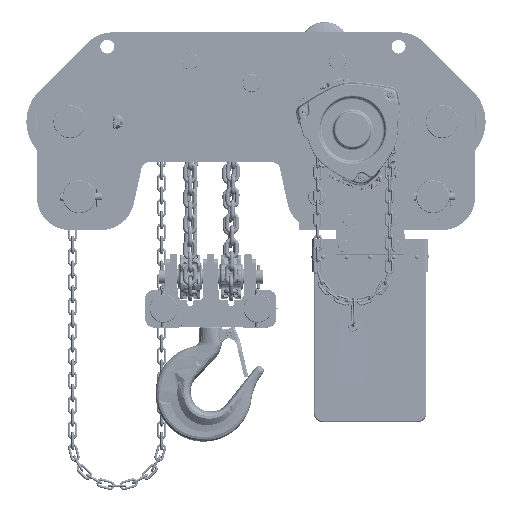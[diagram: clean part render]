
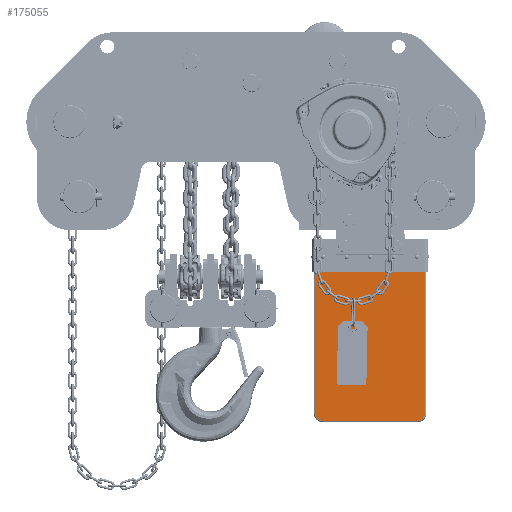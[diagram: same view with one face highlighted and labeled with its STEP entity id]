
A CAD part, top view. The second image highlights one B-rep face of the part: STEP entity #175055.
In plain terms, the highlighted planar face has unit normal (0, 0, 1) as drawn and (-1, 0, 0) by its records, which use the part's own axes.
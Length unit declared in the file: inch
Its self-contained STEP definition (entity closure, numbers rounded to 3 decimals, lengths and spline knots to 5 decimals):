
#5358 = DIRECTION ( 'NONE',  ( 0., 0., 1. ) ) ;
#10570 = DIRECTION ( 'NONE',  ( 0., 0., 1. ) ) ;
#90874 = CARTESIAN_POINT ( 'NONE',  ( -4.72441, -13.46457, -4.6063 ) ) ;
#91840 = ORIENTED_EDGE ( 'NONE', *, *, #614603, .T. ) ;
#100992 = LINE ( 'NONE', #241967, #188574 ) ;
#107564 = DIRECTION ( 'NONE',  ( 0., -1., 0. ) ) ;
#127791 = DIRECTION ( 'NONE',  ( 0., 0., 1. ) ) ;
#146404 = PLANE ( 'NONE',  #623420 ) ;
#153481 = DIRECTION ( 'NONE',  ( 0., 1., 0. ) ) ;
#167734 = LINE ( 'NONE', #511664, #405348 ) ;
#175055 = ADVANCED_FACE ( 'NONE', ( #447543 ), #146404, .T. ) ;
#179502 = CIRCLE ( 'NONE', #545605, 0.66929 ) ;
#188574 = VECTOR ( 'NONE', #153481, 39.37008 ) ;
#190373 = DIRECTION ( 'NONE',  ( -1., 0., 0. ) ) ;
#192811 = EDGE_CURVE ( 'NONE', #380089, #580121, #640115, .T. ) ;
#197608 = ORIENTED_EDGE ( 'NONE', *, *, #546911, .T. ) ;
#209033 = CARTESIAN_POINT ( 'NONE',  ( -4.72441, -14.25197, -4.6063 ) ) ;
#210748 = DIRECTION ( 'NONE',  ( 0., 0., 1. ) ) ;
#235625 = CARTESIAN_POINT ( 'NONE',  ( -4.72441, -13.46457, 3.93701 ) ) ;
#241967 = CARTESIAN_POINT ( 'NONE',  ( -4.72441, -14.25197, 4.6063 ) ) ;
#246533 = CARTESIAN_POINT ( 'NONE',  ( -4.72441, -14.13386, -3.93701 ) ) ;
#254214 = DIRECTION ( 'NONE',  ( -1., 0., 0. ) ) ;
#264116 = CIRCLE ( 'NONE', #494163, 0.66929 ) ;
#289547 = VERTEX_POINT ( 'NONE', #246533 ) ;
#294755 = CARTESIAN_POINT ( 'NONE',  ( -4.72441, 0., -4.6063 ) ) ;
#309415 = ORIENTED_EDGE ( 'NONE', *, *, #411791, .T. ) ;
#338753 = CARTESIAN_POINT ( 'NONE',  ( -4.72441, 0., -4.72441 ) ) ;
#349190 = VERTEX_POINT ( 'NONE', #90874 ) ;
#350120 = VERTEX_POINT ( 'NONE', #449693 ) ;
#374948 = ORIENTED_EDGE ( 'NONE', *, *, #506887, .T. ) ;
#380089 = VERTEX_POINT ( 'NONE', #294755 ) ;
#386425 = VECTOR ( 'NONE', #107564, 39.37008 ) ;
#390154 = DIRECTION ( 'NONE',  ( 0., 0., 1. ) ) ;
#398465 = CARTESIAN_POINT ( 'NONE',  ( -4.72441, -14.25197, -4.72441 ) ) ;
#405348 = VECTOR ( 'NONE', #10570, 39.37008 ) ;
#411791 = EDGE_CURVE ( 'NONE', #350120, #580121, #100992, .T. ) ;
#422500 = DIRECTION ( 'NONE',  ( -1., 0., 0. ) ) ;
#447543 = FACE_OUTER_BOUND ( 'NONE', #637679, .T. ) ;
#449693 = CARTESIAN_POINT ( 'NONE',  ( -4.72441, -13.46457, 4.6063 ) ) ;
#472763 = CARTESIAN_POINT ( 'NONE',  ( -4.72441, -14.13386, 3.93701 ) ) ;
#485750 = ORIENTED_EDGE ( 'NONE', *, *, #635875, .T. ) ;
#494163 = AXIS2_PLACEMENT_3D ( 'NONE', #639031, #190373, #390154 ) ;
#506887 = EDGE_CURVE ( 'NONE', #349190, #289547, #264116, .T. ) ;
#511664 = CARTESIAN_POINT ( 'NONE',  ( -4.72441, -14.13386, 3.93701 ) ) ;
#523867 = VERTEX_POINT ( 'NONE', #472763 ) ;
#545605 = AXIS2_PLACEMENT_3D ( 'NONE', #235625, #422500, #127791 ) ;
#546911 = EDGE_CURVE ( 'NONE', #380089, #349190, #556302, .T. ) ;
#556302 = LINE ( 'NONE', #209033, #386425 ) ;
#561078 = CARTESIAN_POINT ( 'NONE',  ( -4.72441, 0., 4.6063 ) ) ;
#580121 = VERTEX_POINT ( 'NONE', #561078 ) ;
#583254 = ORIENTED_EDGE ( 'NONE', *, *, #192811, .F. ) ;
#614603 = EDGE_CURVE ( 'NONE', #289547, #523867, #167734, .T. ) ;
#623420 = AXIS2_PLACEMENT_3D ( 'NONE', #398465, #254214, #5358 ) ;
#624286 = VECTOR ( 'NONE', #210748, 39.37008 ) ;
#635875 = EDGE_CURVE ( 'NONE', #523867, #350120, #179502, .T. ) ;
#637679 = EDGE_LOOP ( 'NONE', ( #583254, #197608, #374948, #91840, #485750, #309415 ) ) ;
#639031 = CARTESIAN_POINT ( 'NONE',  ( -4.72441, -13.46457, -3.93701 ) ) ;
#640115 = LINE ( 'NONE', #338753, #624286 ) ;
